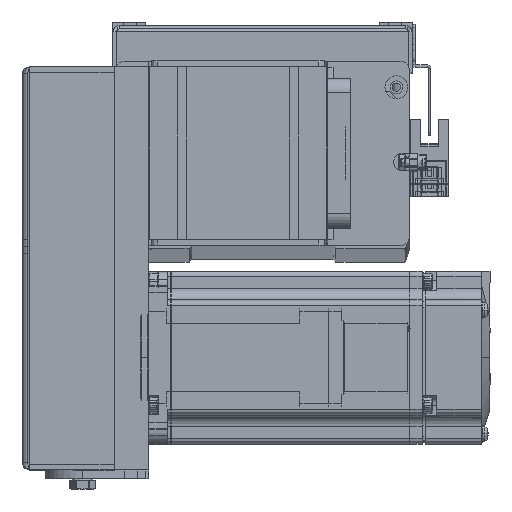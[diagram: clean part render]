
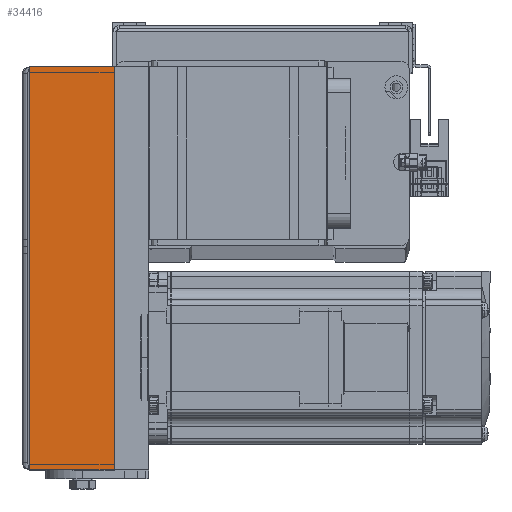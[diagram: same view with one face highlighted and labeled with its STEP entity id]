
A CAD part, top view. The second image highlights one B-rep face of the part: STEP entity #34416.
In plain terms, the highlighted planar face has unit normal (0, 0, 1) as drawn and (0, 0, -1) by its records, which use the part's own axes.
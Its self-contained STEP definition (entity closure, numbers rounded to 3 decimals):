
#428 = DIRECTION ( 'NONE',  ( 0., 0., 1. ) ) ;
#2656 = LINE ( 'NONE', #40578, #29368 ) ;
#3466 = LINE ( 'NONE', #20020, #17883 ) ;
#3705 = LINE ( 'NONE', #20792, #24178 ) ;
#5746 = VERTEX_POINT ( 'NONE', #8338 ) ;
#6194 = CARTESIAN_POINT ( 'NONE',  ( -70., 0., -31. ) ) ;
#8338 = CARTESIAN_POINT ( 'NONE',  ( 70., -29.5, -31. ) ) ;
#8551 = VERTEX_POINT ( 'NONE', #24347 ) ;
#9716 = EDGE_CURVE ( 'NONE', #5746, #36754, #3466, .T. ) ;
#16974 = DIRECTION ( 'NONE',  ( 0., 1., 0. ) ) ;
#17883 = VECTOR ( 'NONE', #36520, 1000. ) ;
#18238 = ORIENTED_EDGE ( 'NONE', *, *, #53394, .T. ) ;
#20020 = CARTESIAN_POINT ( 'NONE',  ( 70., -29.5, -31. ) ) ;
#20063 = CARTESIAN_POINT ( 'NONE',  ( 70., 0., -31. ) ) ;
#20792 = CARTESIAN_POINT ( 'NONE',  ( -70., -29.5, -31. ) ) ;
#21030 = PLANE ( 'NONE',  #25462 ) ;
#22092 = FACE_OUTER_BOUND ( 'NONE', #52474, .T. ) ;
#24178 = VECTOR ( 'NONE', #49222, 1000. ) ;
#24347 = CARTESIAN_POINT ( 'NONE',  ( -70., -29.5, -31. ) ) ;
#24832 = CARTESIAN_POINT ( 'NONE',  ( 0., 0., -31. ) ) ;
#25462 = AXIS2_PLACEMENT_3D ( 'NONE', #37530, #428, #16974 ) ;
#25898 = LINE ( 'NONE', #24832, #36144 ) ;
#29217 = EDGE_CURVE ( 'NONE', #8551, #5746, #2656, .T. ) ;
#29368 = VECTOR ( 'NONE', #35707, 1000. ) ;
#29690 = ORIENTED_EDGE ( 'NONE', *, *, #29217, .F. ) ;
#34416 = ADVANCED_FACE ( 'NONE', ( #22092 ), #21030, .F. ) ;
#35556 = ORIENTED_EDGE ( 'NONE', *, *, #50828, .T. ) ;
#35707 = DIRECTION ( 'NONE',  ( 1., 0., 0. ) ) ;
#36144 = VECTOR ( 'NONE', #42392, 1000. ) ;
#36520 = DIRECTION ( 'NONE',  ( 0., 1., 0. ) ) ;
#36754 = VERTEX_POINT ( 'NONE', #20063 ) ;
#37530 = CARTESIAN_POINT ( 'NONE',  ( 0., -30., -31. ) ) ;
#38503 = ORIENTED_EDGE ( 'NONE', *, *, #9716, .F. ) ;
#39177 = VERTEX_POINT ( 'NONE', #6194 ) ;
#40578 = CARTESIAN_POINT ( 'NONE',  ( 70., -29.5, -31. ) ) ;
#42392 = DIRECTION ( 'NONE',  ( 1., 0., 0. ) ) ;
#49222 = DIRECTION ( 'NONE',  ( 0., 1., 0. ) ) ;
#50828 = EDGE_CURVE ( 'NONE', #39177, #36754, #25898, .T. ) ;
#52474 = EDGE_LOOP ( 'NONE', ( #29690, #18238, #35556, #38503 ) ) ;
#53394 = EDGE_CURVE ( 'NONE', #8551, #39177, #3705, .T. ) ;
